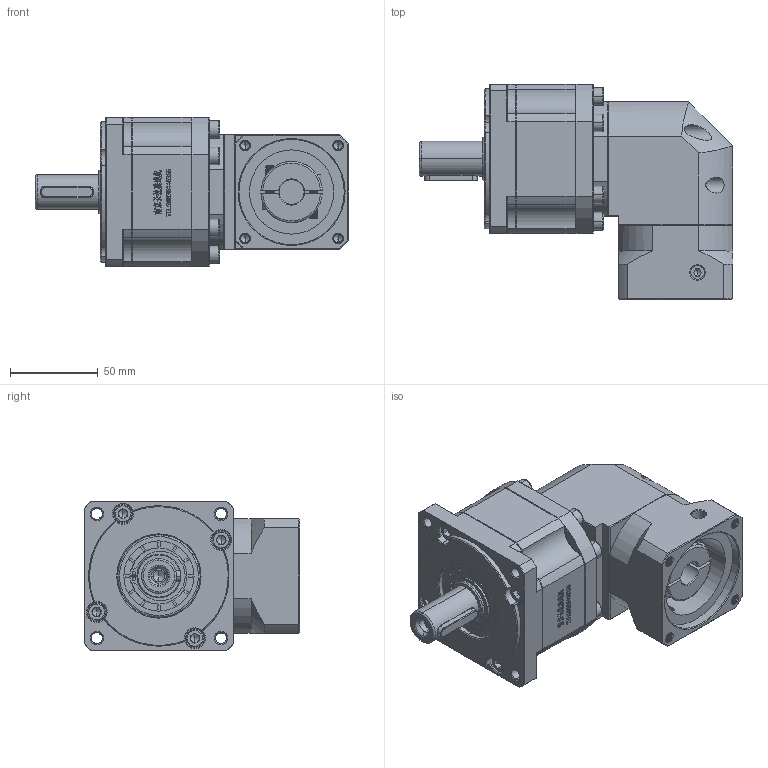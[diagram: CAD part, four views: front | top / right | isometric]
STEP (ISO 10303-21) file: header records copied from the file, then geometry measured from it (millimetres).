
FILE_DESCRIPTION (( 'STEP AP214' ), '1' );
FILE_NAME ('ZBR90-D20-L2-14-60-75-M6.step', '2022-05-07T15:16:06', ( '' ), ( 'Microsoft' ), 'SwSTEP 2.0', 'SolidWorks 2016', '' );
FILE_SCHEMA (( 'AUTOMOTIVE_DESIGN' ));
Length unit declared in the file: millimetre
Products named in the file (1): ZBR90-D20-L2-14-60-75-M6
Bounding box: 178.5 x 122.7 x 85 mm (x, y, z)
Volume: 813673.3 mm3; surface area: 101251 mm2
Topology: 5 solids, 5 shells, 3036 faces, 8152 edges, 5260 vertices
Faces by surface type: plane 1598, bspline 608, cylinder 441, cone 369, torus 20
Entity records: 163037 total; most frequent: CARTESIAN_POINT 58158, ORIENTED_EDGE 16212, DIRECTION 12532, EDGE_CURVE 8106, VECTOR 5358, LINE 5358, VERTEX_POINT 5260, AXIS2_PLACEMENT_3D 3587
